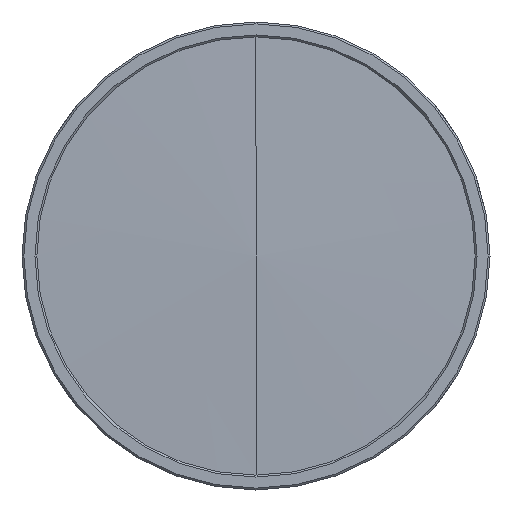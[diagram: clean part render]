
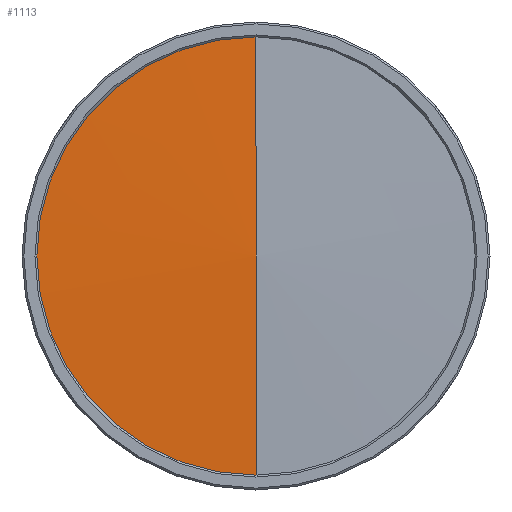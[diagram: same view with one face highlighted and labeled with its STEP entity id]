
A CAD part, left-side view. The second image highlights one B-rep face of the part: STEP entity #1113.
In plain terms, the highlighted conical face has half-angle 88.647 degrees and reference radius 36.012 mm.
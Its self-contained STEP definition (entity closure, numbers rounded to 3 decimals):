
#183 = LINE ( 'NONE', #22914, #8962 ) ;
#348 = VECTOR ( 'NONE', #6253, 1000. ) ;
#1113 = ADVANCED_FACE ( 'NONE', ( #3342 ), #18544, .T. ) ;
#3342 = FACE_OUTER_BOUND ( 'NONE', #8663, .T. ) ;
#6253 = DIRECTION ( 'NONE',  ( 0.024, 0., 1. ) ) ;
#7024 = VERTEX_POINT ( 'NONE', #23048 ) ;
#7578 = DIRECTION ( 'NONE',  ( 0., 0., -1. ) ) ;
#7999 = EDGE_CURVE ( 'NONE', #16226, #24240, #183, .T. ) ;
#8494 = ORIENTED_EDGE ( 'NONE', *, *, #7999, .F. ) ;
#8663 = EDGE_LOOP ( 'NONE', ( #8494, #13936, #21576 ) ) ;
#8962 = VECTOR ( 'NONE', #15264, 1000. ) ;
#10406 = AXIS2_PLACEMENT_3D ( 'NONE', #13059, #13297, #7578 ) ;
#10462 = CIRCLE ( 'NONE', #11263, 34.65 ) ;
#11263 = AXIS2_PLACEMENT_3D ( 'NONE', #21085, #15565, #17555 ) ;
#11428 = CARTESIAN_POINT ( 'NONE',  ( 0.3, 0., 0. ) ) ;
#13059 = CARTESIAN_POINT ( 'NONE',  ( 1.15, 0., 0. ) ) ;
#13297 = DIRECTION ( 'NONE',  ( 1., 0., 0. ) ) ;
#13936 = ORIENTED_EDGE ( 'NONE', *, *, #24037, .T. ) ;
#15264 = DIRECTION ( 'NONE',  ( 0.024, 0., -1. ) ) ;
#15565 = DIRECTION ( 'NONE',  ( 1., 0., 0. ) ) ;
#15659 = EDGE_CURVE ( 'NONE', #24240, #7024, #10462, .T. ) ;
#16226 = VERTEX_POINT ( 'NONE', #11428 ) ;
#17068 = LINE ( 'NONE', #22831, #348 ) ;
#17555 = DIRECTION ( 'NONE',  ( 0., 0., -1. ) ) ;
#18544 = CONICAL_SURFACE ( 'NONE', #10406, 36.012, 1.547 ) ;
#19748 = CARTESIAN_POINT ( 'NONE',  ( 1.118, 0., -34.65 ) ) ;
#21085 = CARTESIAN_POINT ( 'NONE',  ( 1.118, 0., 0. ) ) ;
#21576 = ORIENTED_EDGE ( 'NONE', *, *, #15659, .F. ) ;
#22831 = CARTESIAN_POINT ( 'NONE',  ( 1.15, 0., 36.012 ) ) ;
#22914 = CARTESIAN_POINT ( 'NONE',  ( 1.15, 0., -36.012 ) ) ;
#23048 = CARTESIAN_POINT ( 'NONE',  ( 1.118, 0., 34.65 ) ) ;
#24037 = EDGE_CURVE ( 'NONE', #16226, #7024, #17068, .T. ) ;
#24240 = VERTEX_POINT ( 'NONE', #19748 ) ;
